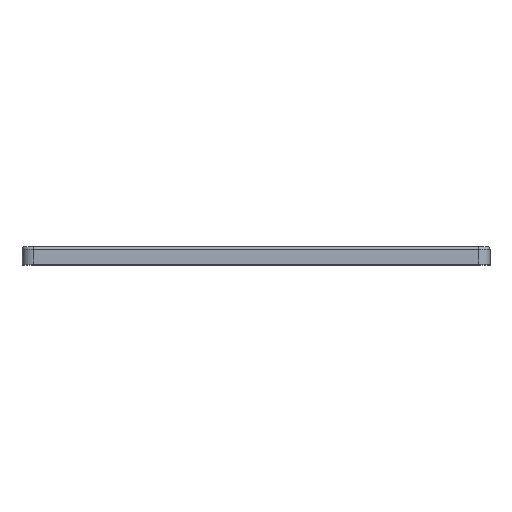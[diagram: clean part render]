
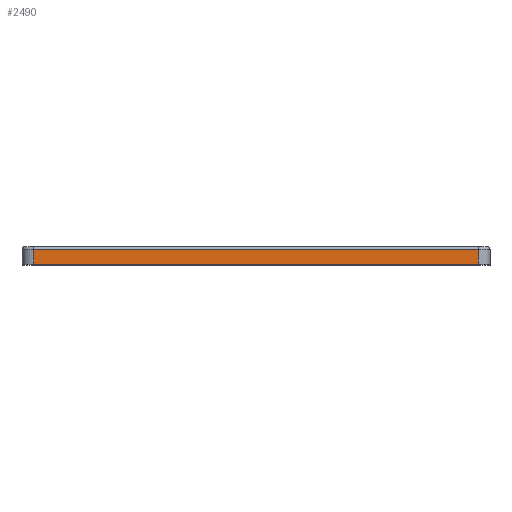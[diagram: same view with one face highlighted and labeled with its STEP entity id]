
A CAD part, top view. The second image highlights one B-rep face of the part: STEP entity #2490.
In plain terms, the highlighted planar face has unit normal (0, 0, 1).
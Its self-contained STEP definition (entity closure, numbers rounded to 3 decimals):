
#262=PLANE('',#2664);
#393=FACE_OUTER_BOUND('',#549,.T.);
#549=EDGE_LOOP('',(#2300,#2301,#2302,#2303));
#630=LINE('',#3415,#866);
#681=LINE('',#3627,#917);
#684=LINE('',#3636,#920);
#799=LINE('',#4300,#1035);
#866=VECTOR('',#2841,10.);
#917=VECTOR('',#2942,10.);
#920=VECTOR('',#2953,10.);
#1035=VECTOR('',#3214,10.);
#1151=VERTEX_POINT('',#3407);
#1153=VERTEX_POINT('',#3413);
#1225=VERTEX_POINT('',#3626);
#1227=VERTEX_POINT('',#3634);
#1403=EDGE_CURVE('',#1153,#1151,#630,.T.);
#1485=EDGE_CURVE('',#1151,#1225,#681,.T.);
#1490=EDGE_CURVE('',#1227,#1153,#684,.T.);
#1659=EDGE_CURVE('',#1227,#1225,#799,.T.);
#2300=ORIENTED_EDGE('',*,*,#1403,.F.);
#2301=ORIENTED_EDGE('',*,*,#1490,.F.);
#2302=ORIENTED_EDGE('',*,*,#1659,.T.);
#2303=ORIENTED_EDGE('',*,*,#1485,.F.);
#2490=ADVANCED_FACE('',(#393),#262,.T.);
#2664=AXIS2_PLACEMENT_3D('',#4299,#3212,#3213);
#2841=DIRECTION('',(1.,0.,0.));
#2942=DIRECTION('',(0.,-1.,0.));
#2953=DIRECTION('',(0.,1.,0.));
#3212=DIRECTION('center_axis',(0.,0.,1.));
#3213=DIRECTION('ref_axis',(1.,0.,0.));
#3214=DIRECTION('',(1.,0.,0.));
#3407=CARTESIAN_POINT('',(38.,2.5,60.));
#3413=CARTESIAN_POINT('',(-38.,2.5,60.));
#3415=CARTESIAN_POINT('',(-20.,2.5,60.));
#3626=CARTESIAN_POINT('',(38.,0.,60.));
#3627=CARTESIAN_POINT('',(38.,0.,60.));
#3634=CARTESIAN_POINT('',(-38.,0.,60.));
#3636=CARTESIAN_POINT('',(-38.,0.,60.));
#4299=CARTESIAN_POINT('Origin',(-40.,0.,60.));
#4300=CARTESIAN_POINT('',(-40.,0.,60.));
